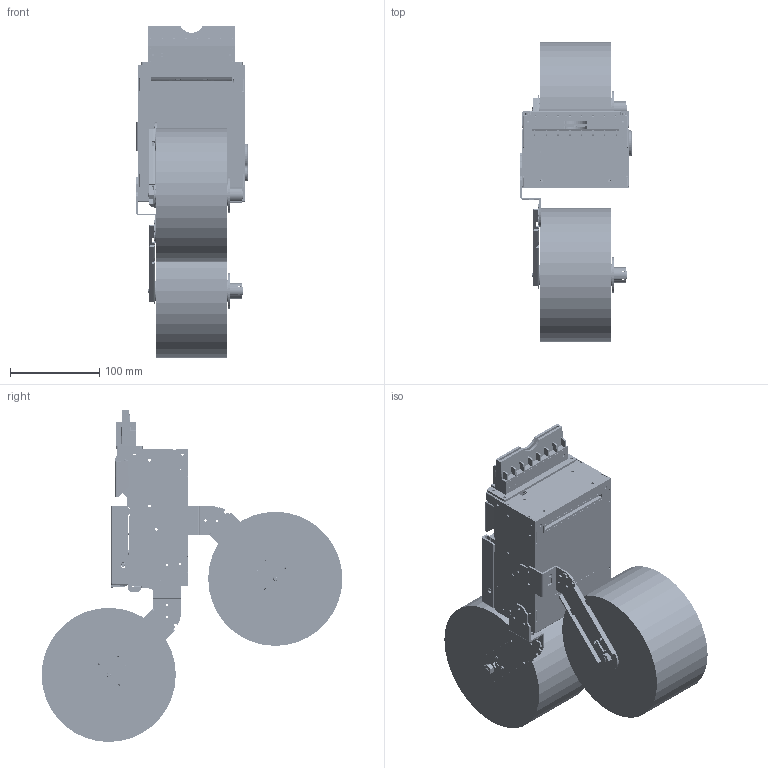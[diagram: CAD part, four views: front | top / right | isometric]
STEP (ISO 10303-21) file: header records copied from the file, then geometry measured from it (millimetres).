
FILE_DESCRIPTION((''),'2;1');
FILE_NAME('EP802_TMP','2017-04-20T',('Administrator'),(''),'PRO/ENGINEER BY PARAMETRIC TECHNOLOGY CORPORATION, 2013430','PRO/ENGINEER BY PARAMETRIC TECHNOLOGY CORPORATION, 2013430','');
FILE_SCHEMA(('AUTOMOTIVE_DESIGN_CC2 { 1 2 10303 214 -1 1 5 2 }'));
Products named in the file (1): EP802_TMP
Bounding box: 124.3 x 336.2 x 371.2 mm (x, y, z)
Volume: 3082708.9 mm3; surface area: 564132.8 mm2
Topology: 61 solids, 77 shells, 4554 faces, 13530 edges, 9294 vertices
Faces by surface type: plane 2443, cylinder 1722, bspline 162, cone 117, torus 60, extrusion 38, sphere 12
Entity records: 240004 total; most frequent: CARTESIAN_POINT 85042, ORIENTED_EDGE 26950, DIRECTION 25010, EDGE_CURVE 13504, VERTEX_POINT 9287, VECTOR 8812, LINE 8774, AXIS2_PLACEMENT_3D 8099
